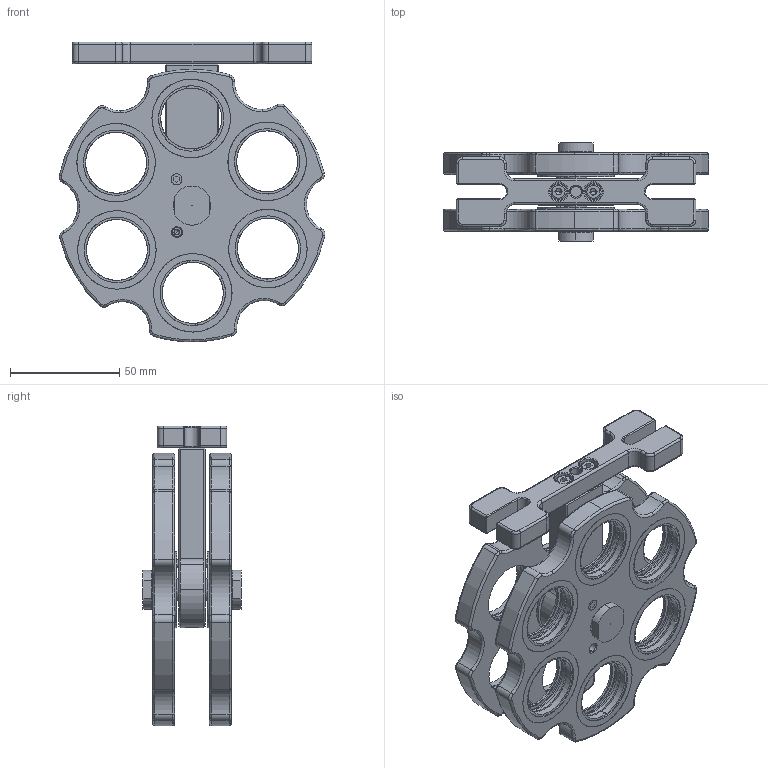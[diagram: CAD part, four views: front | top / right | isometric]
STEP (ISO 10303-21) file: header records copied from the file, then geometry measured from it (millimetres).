
FILE_DESCRIPTION (( 'STEP AP203' ), '1' );
FILE_NAME ('HGMMF330 薦嫖え釱謫蚾饜极.STEP', '2021-05-20T07:52:00', ( '' ), ( '' ), 'SwSTEP 2.0', 'SolidWorks 2020', '' );
FILE_SCHEMA (( 'CONFIG_CONTROL_DESIGN' ));
Length unit declared in the file: millimetre
Products named in the file (14): HGMML330-2; HGMMF330 薦嫖え釱謫蚾饜极; HGMMF3254S-10 蛌謫坶譫; HGMMF3254S-8 蛌謫肣眄杶; hex socket set screws with flat point gb_GB_FASTENER_SCREWS_HSFP M6X10-N; HGMML330-3; hexagon socket head cap screws gb_GB_FASTENER_SCREWS_HSHCS M4X12-N; HGMMF330S-4 蛌謫; HGMMF330-3 謫粣; HGMMF3254S-1 菁啣; M5波珠螺钉 （HGMMF3254S-11）; HGMMF330S-2 蕾翐; HGMMF3254S-9 白色聚四氟小垫圈; HGMMF330S-5 螺纹镶嵌环
Assembly tree (52 placements, depth 2):
  HGMMF330 薦嫖え釱謫蚾饜极
    HGMMF3254S-1 菁啣
    HGMMF330S-2 蕾翐
    HGMMF330-3 謫粣
    HGMMF330S-4 蛌謫  x2
    HGMMF3254S-8 蛌謫肣眄杶  x2
    HGMMF3254S-9 白色聚四氟小垫圈  x2
    HGMMF3254S-10 蛌謫坶譫  x2
    HGMMF330S-5 螺纹镶嵌环  x12
    M5波珠螺钉 （HGMMF3254S-11）  x2
    hex socket set screws with flat point gb_GB_FASTENER_SCREWS_HSFP M6X10-N
    hexagon socket head cap screws gb_GB_FASTENER_SCREWS_HSHCS M4X12-N  x2
    HGMML330-2  x12
    HGMML330-3  x12
Bounding box: 122 x 45 x 137.5 mm (x, y, z)
Volume: 192652.4 mm3; surface area: 120832 mm2
Topology: 52 solids, 52 shells, 1083 faces, 2445 edges, 1519 vertices
Faces by surface type: cylinder 446, plane 341, torus 144, cone 122, sphere 28, bspline 2
Entity records: 18073 total; most frequent: CARTESIAN_POINT 3573, DIRECTION 2887, ORIENTED_EDGE 2242, AXIS2_PLACEMENT_3D 1213, EDGE_CURVE 1121, VERTEX_POINT 677, CIRCLE 651, EDGE_LOOP 586
